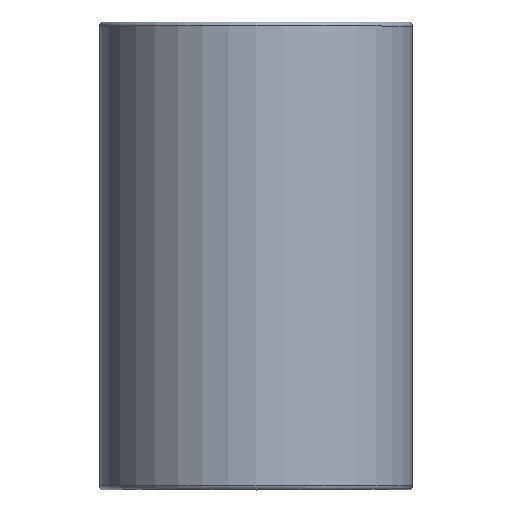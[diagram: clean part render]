
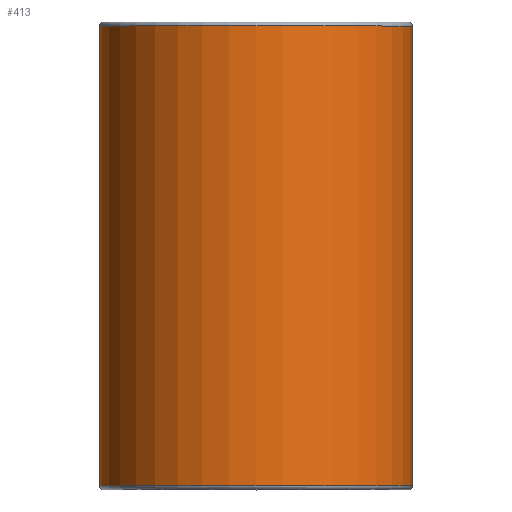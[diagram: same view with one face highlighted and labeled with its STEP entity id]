
A CAD part, top view. The second image highlights one B-rep face of the part: STEP entity #413.
In plain terms, the highlighted cylindrical face has radius 402 mm (diameter 804 mm), a full revolution.
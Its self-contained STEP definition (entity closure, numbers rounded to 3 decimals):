
#45=FACE_BOUND('',#139,.T.);
#91=FACE_OUTER_BOUND('',#138,.T.);
#138=EDGE_LOOP('',(#328));
#139=EDGE_LOOP('',(#329));
#204=CIRCLE('',#475,402.);
#206=CIRCLE('',#478,402.);
#242=VERTEX_POINT('',#722);
#244=VERTEX_POINT('',#727);
#280=EDGE_CURVE('',#242,#242,#204,.T.);
#282=EDGE_CURVE('',#244,#244,#206,.T.);
#328=ORIENTED_EDGE('',*,*,#282,.F.);
#329=ORIENTED_EDGE('',*,*,#280,.F.);
#386=CYLINDRICAL_SURFACE('',#477,402.);
#413=ADVANCED_FACE('',(#91,#45),#386,.T.);
#475=AXIS2_PLACEMENT_3D('',#723,#586,#587);
#477=AXIS2_PLACEMENT_3D('',#726,#590,#591);
#478=AXIS2_PLACEMENT_3D('',#728,#592,#593);
#586=DIRECTION('center_axis',(0.,1.,0.));
#587=DIRECTION('ref_axis',(1.,0.,0.));
#590=DIRECTION('center_axis',(0.,1.,0.));
#591=DIRECTION('ref_axis',(1.,0.,0.));
#592=DIRECTION('center_axis',(0.,-1.,0.));
#593=DIRECTION('ref_axis',(1.,0.,0.));
#722=CARTESIAN_POINT('',(-402.,590.,0.));
#723=CARTESIAN_POINT('Origin',(0.,590.,0.));
#726=CARTESIAN_POINT('Origin',(0.,0.,0.));
#727=CARTESIAN_POINT('',(-402.,-590.,0.));
#728=CARTESIAN_POINT('Origin',(0.,-590.,0.));
